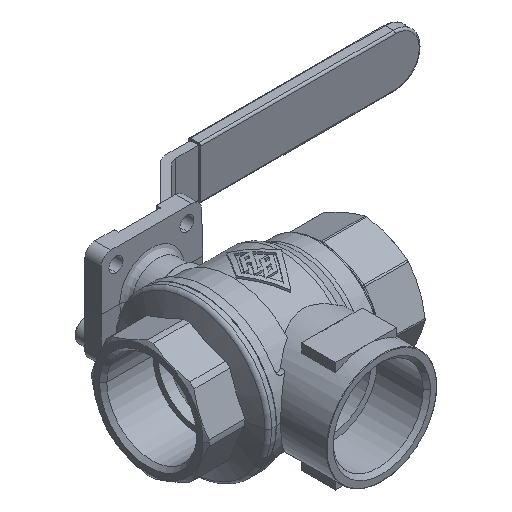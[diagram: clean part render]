
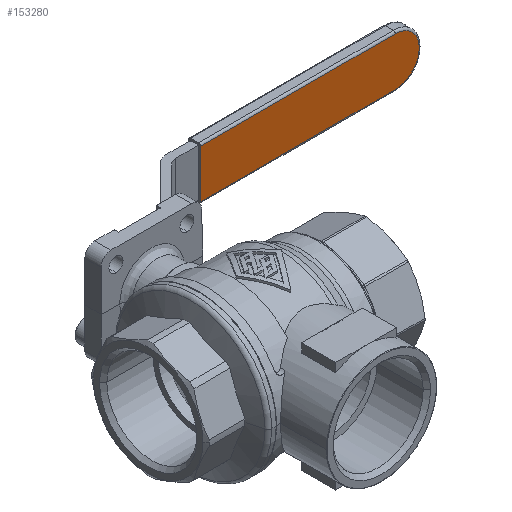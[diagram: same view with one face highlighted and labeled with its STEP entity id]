
A CAD part, isometric view. The second image highlights one B-rep face of the part: STEP entity #153280.
In plain terms, the highlighted planar face has unit normal (0, -1, 0).
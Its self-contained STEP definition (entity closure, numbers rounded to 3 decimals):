
#152880=CARTESIAN_POINT('',(-136.225,89.,
1.651));
#152890=DIRECTION('',(0.,1.,0.));
#152900=DIRECTION('',(-1.,0.,0.));
#152910=AXIS2_PLACEMENT_3D('',#152880,#152890,#152900);
#152920=PLANE('',#152910);
#152930=CARTESIAN_POINT('',(-136.225,89.,12.));
#152940=DIRECTION('',(1.,0.,0.));
#152950=VECTOR('',#152940,1.);
#152960=LINE('',#152930,#152950);
#152970=CARTESIAN_POINT('',(-156.995,89.,12.));
#152980=VERTEX_POINT('',#152970);
#152990=CARTESIAN_POINT('',(-59.995,89.,12.));
#153000=VERTEX_POINT('',#152990);
#153010=EDGE_CURVE('',#152980,#153000,#152960,.T.);
#153020=ORIENTED_EDGE('',*,*,#153010,.F.);
#153030=CARTESIAN_POINT('',(-59.995,89.,13.));
#153040=DIRECTION('',(0.,0.,-1.));
#153050=VECTOR('',#153040,1.);
#153060=LINE('',#153030,#153050);
#153070=CARTESIAN_POINT('',(-59.995,89.,-12.));
#153080=VERTEX_POINT('',#153070);
#153090=EDGE_CURVE('',#153000,#153080,#153060,.T.);
#153100=ORIENTED_EDGE('',*,*,#153090,.F.);
#153110=CARTESIAN_POINT('',(-136.225,89.,-12.));
#153120=DIRECTION('',(-1.,0.,0.));
#153130=VECTOR('',#153120,1.);
#153140=LINE('',#153110,#153130);
#153150=CARTESIAN_POINT('',(-156.995,89.,-12.));
#153160=VERTEX_POINT('',#153150);
#153170=EDGE_CURVE('',#153080,#153160,#153140,.T.);
#153180=ORIENTED_EDGE('',*,*,#153170,.F.);
#153190=CARTESIAN_POINT('',(-156.995,89.,
0.));
#153200=DIRECTION('',(0.,1.,0.));
#153210=DIRECTION('',(-1.,0.,0.));
#153220=AXIS2_PLACEMENT_3D('',#153190,#153200,#153210);
#153230=CIRCLE('',#153220,12.);
#153240=EDGE_CURVE('',#153160,#152980,#153230,.T.);
#153250=ORIENTED_EDGE('',*,*,#153240,.F.);
#153260=EDGE_LOOP('',(#153250,#153180,#153100,#153020));
#153270=FACE_OUTER_BOUND('',#153260,.T.);
#153280=ADVANCED_FACE('',(#153270),#152920,.F.);
